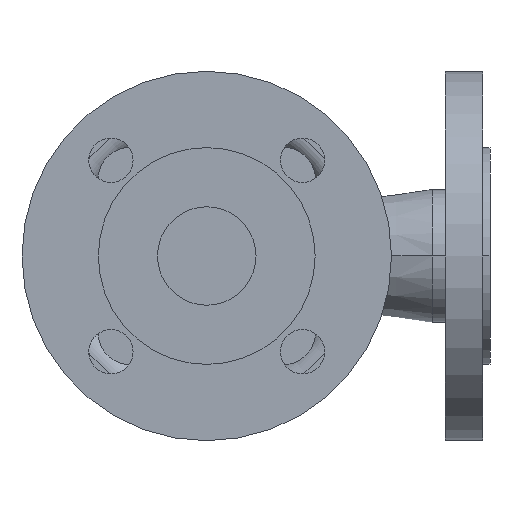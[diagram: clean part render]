
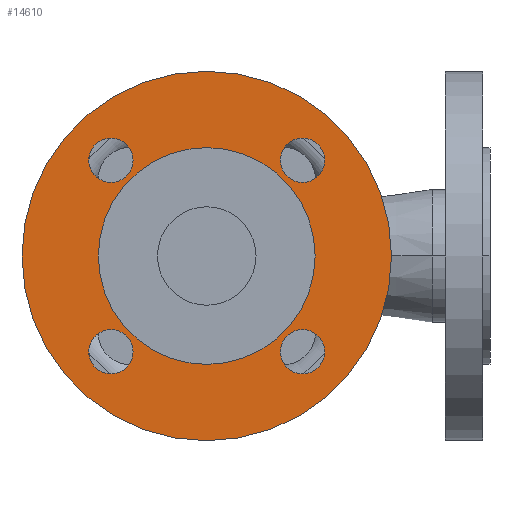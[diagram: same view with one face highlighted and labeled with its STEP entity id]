
A CAD part, front view. The second image highlights one B-rep face of the part: STEP entity #14610.
In plain terms, the highlighted planar face has unit normal (0, -1, 0).
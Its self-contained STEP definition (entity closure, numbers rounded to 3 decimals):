
#610=CARTESIAN_POINT('',(-44.,3.,0.));
#620=VERTEX_POINT('',#610);
#780=CARTESIAN_POINT('',(44.,3.,0.));
#790=VERTEX_POINT('',#780);
#820=CARTESIAN_POINT('',(0.,3.,0.));
#830=DIRECTION('',(0.,-1.,0.));
#840=DIRECTION('',(-1.,0.,0.));
#850=AXIS2_PLACEMENT_3D('',#820,#830,#840);
#860=CIRCLE('',#850,44.);
#870=EDGE_CURVE('',#620,#790,#860,.T.);
#4700=CARTESIAN_POINT('',(75.,3.,0.));
#4710=VERTEX_POINT('',#4700);
#4740=CARTESIAN_POINT('',(0.,3.,0.));
#4750=DIRECTION('',(0.,1.,0.));
#4760=DIRECTION('',(1.,0.,0.));
#4770=AXIS2_PLACEMENT_3D('',#4740,#4750,#4760);
#4780=CIRCLE('',#4770,75.);
#4790=CARTESIAN_POINT('',(-75.,3.,0.));
#4800=VERTEX_POINT('',#4790);
#4810=EDGE_CURVE('',#4800,#4710,#4780,.T.);
#5190=CARTESIAN_POINT('',(47.891,3.,-38.891));
#5200=VERTEX_POINT('',#5190);
#5360=CARTESIAN_POINT('',(29.891,3.,-38.891));
#5370=VERTEX_POINT('',#5360);
#5400=CARTESIAN_POINT('',(38.891,3.,-38.891));
#5410=DIRECTION('',(0.,1.,0.));
#5420=DIRECTION('',(1.,0.,0.));
#5430=AXIS2_PLACEMENT_3D('',#5400,#5410,#5420);
#5440=CIRCLE('',#5430,9.);
#5450=EDGE_CURVE('',#5370,#5200,#5440,.T.);
#5680=CARTESIAN_POINT('',(47.891,3.,38.891));
#5690=VERTEX_POINT('',#5680);
#5720=CARTESIAN_POINT('',(38.891,3.,38.891));
#5730=DIRECTION('',(0.,1.,0.));
#5740=DIRECTION('',(1.,0.,0.));
#5750=AXIS2_PLACEMENT_3D('',#5720,#5730,#5740);
#5760=CIRCLE('',#5750,9.);
#5770=CARTESIAN_POINT('',(29.891,3.,38.891));
#5780=VERTEX_POINT('',#5770);
#5790=EDGE_CURVE('',#5690,#5780,#5760,.T.);
#6170=CARTESIAN_POINT('',(-47.891,3.,-38.891));
#6180=VERTEX_POINT('',#6170);
#6210=CARTESIAN_POINT('',(-38.891,3.,-38.891));
#6220=DIRECTION('',(0.,1.,0.));
#6230=DIRECTION('',(1.,0.,0.));
#6240=AXIS2_PLACEMENT_3D('',#6210,#6220,#6230);
#6250=CIRCLE('',#6240,9.);
#6260=CARTESIAN_POINT('',(-29.891,3.,-38.891));
#6270=VERTEX_POINT('',#6260);
#6280=EDGE_CURVE('',#6180,#6270,#6250,.T.);
#6660=CARTESIAN_POINT('',(-29.891,3.,38.891));
#6670=VERTEX_POINT('',#6660);
#6830=CARTESIAN_POINT('',(-47.891,3.,38.891));
#6840=VERTEX_POINT('',#6830);
#6870=CARTESIAN_POINT('',(-38.891,3.,38.891));
#6880=DIRECTION('',(0.,1.,0.));
#6890=DIRECTION('',(1.,0.,0.));
#6900=AXIS2_PLACEMENT_3D('',#6870,#6880,#6890);
#6910=CIRCLE('',#6900,9.);
#6920=EDGE_CURVE('',#6840,#6670,#6910,.T.);
#14260=CARTESIAN_POINT('',(0.,3.,0.));
#14270=DIRECTION('',(0.,1.,0.));
#14280=DIRECTION('',(0.,0.,1.));
#14290=AXIS2_PLACEMENT_3D('',#14260,#14270,#14280);
#14300=PLANE('',#14290);
#14310=EDGE_CURVE('',#6670,#6840,#6910,.T.);
#14320=ORIENTED_EDGE('',*,*,#14310,.T.);
#14330=ORIENTED_EDGE('',*,*,#6920,.T.);
#14340=EDGE_LOOP('',(#14330,#14320));
#14350=FACE_BOUND('',#14340,.T.);
#14360=ORIENTED_EDGE('',*,*,#6280,.T.);
#14370=EDGE_CURVE('',#6270,#6180,#6250,.T.);
#14380=ORIENTED_EDGE('',*,*,#14370,.T.);
#14390=EDGE_LOOP('',(#14380,#14360));
#14400=FACE_BOUND('',#14390,.T.);
#14410=EDGE_CURVE('',#5780,#5690,#5760,.T.);
#14420=ORIENTED_EDGE('',*,*,#14410,.T.);
#14430=ORIENTED_EDGE('',*,*,#5790,.T.);
#14440=EDGE_LOOP('',(#14430,#14420));
#14450=FACE_BOUND('',#14440,.T.);
#14460=EDGE_CURVE('',#5200,#5370,#5440,.T.);
#14470=ORIENTED_EDGE('',*,*,#14460,.T.);
#14480=ORIENTED_EDGE('',*,*,#5450,.T.);
#14490=EDGE_LOOP('',(#14480,#14470));
#14500=FACE_BOUND('',#14490,.T.);
#14510=EDGE_CURVE('',#4710,#4800,#4780,.T.);
#14520=ORIENTED_EDGE('',*,*,#14510,.F.);
#14530=ORIENTED_EDGE('',*,*,#4810,.F.);
#14540=EDGE_LOOP('',(#14530,#14520));
#14550=FACE_OUTER_BOUND('',#14540,.T.);
#14560=EDGE_CURVE('',#790,#620,#860,.T.);
#14570=ORIENTED_EDGE('',*,*,#14560,.F.);
#14580=ORIENTED_EDGE('',*,*,#870,.F.);
#14590=EDGE_LOOP('',(#14580,#14570));
#14600=FACE_BOUND('',#14590,.T.);
#14610=ADVANCED_FACE('',(#14350,#14400,#14450,#14500,#14550,#14600),
#14300,.F.);
